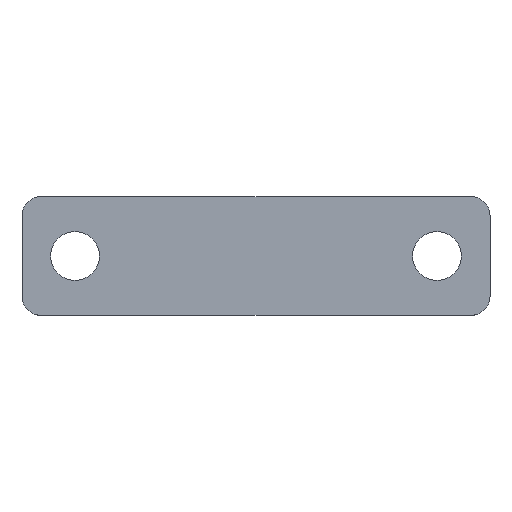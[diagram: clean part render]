
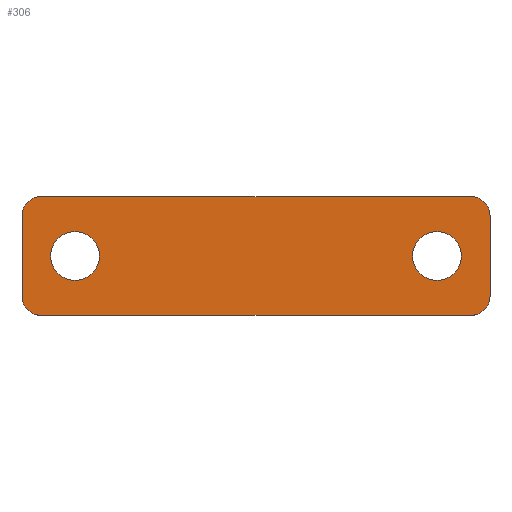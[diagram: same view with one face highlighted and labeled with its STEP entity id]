
A CAD part, top view. The second image highlights one B-rep face of the part: STEP entity #306.
In plain terms, the highlighted planar face has unit normal (0, 0, 1).
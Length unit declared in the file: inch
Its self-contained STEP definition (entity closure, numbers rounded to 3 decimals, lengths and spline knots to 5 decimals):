
#45=CARTESIAN_POINT('',(0.58,0.,0.093));
#46=DIRECTION('',(0.,0.,1.));
#47=DIRECTION('',(1.,0.,0.));
#48=AXIS2_PLACEMENT_3D('',#45,#46,#47);
#50=CARTESIAN_POINT('',(0.58,0.,0.093));
#51=DIRECTION('',(0.,0.,1.));
#52=DIRECTION('',(-1.,0.,0.));
#53=AXIS2_PLACEMENT_3D('',#50,#51,#52);
#55=CARTESIAN_POINT('',(-0.58,0.,0.093));
#56=DIRECTION('',(0.,0.,1.));
#57=DIRECTION('',(1.,0.,0.));
#58=AXIS2_PLACEMENT_3D('',#55,#56,#57);
#60=CARTESIAN_POINT('',(-0.58,0.,0.093));
#61=DIRECTION('',(0.,0.,1.));
#62=DIRECTION('',(-1.,0.,0.));
#63=AXIS2_PLACEMENT_3D('',#60,#61,#62);
#65=DIRECTION('',(0.,1.,0.));
#66=VECTOR('',#65,0.26);
#67=CARTESIAN_POINT('',(0.75,-0.13,0.093));
#68=LINE('',#67,#66);
#69=DIRECTION('',(1.,0.,0.));
#70=VECTOR('',#69,1.38);
#71=CARTESIAN_POINT('',(-0.69,-0.19,0.093));
#72=LINE('',#71,#70);
#73=DIRECTION('',(0.,-1.,0.));
#74=VECTOR('',#73,0.26);
#75=CARTESIAN_POINT('',(-0.75,0.13,0.093));
#76=LINE('',#75,#74);
#77=DIRECTION('',(-1.,0.,0.));
#78=VECTOR('',#77,1.38);
#79=CARTESIAN_POINT('',(0.69,0.19,0.093));
#80=LINE('',#79,#78);
#102=CARTESIAN_POINT('',(0.69,0.13,0.093));
#103=DIRECTION('',(0.,0.,1.));
#104=DIRECTION('',(1.,0.,0.));
#105=AXIS2_PLACEMENT_3D('',#102,#103,#104);
#120=CARTESIAN_POINT('',(-0.69,0.13,0.093));
#121=DIRECTION('',(0.,0.,1.));
#122=DIRECTION('',(0.,1.,0.));
#123=AXIS2_PLACEMENT_3D('',#120,#121,#122);
#138=CARTESIAN_POINT('',(-0.69,-0.13,0.093));
#139=DIRECTION('',(0.,0.,1.));
#140=DIRECTION('',(-1.,0.,0.));
#141=AXIS2_PLACEMENT_3D('',#138,#139,#140);
#156=CARTESIAN_POINT('',(0.69,-0.13,0.093));
#157=DIRECTION('',(0.,0.,1.));
#158=DIRECTION('',(0.,-1.,0.));
#159=AXIS2_PLACEMENT_3D('',#156,#157,#158);
#169=CARTESIAN_POINT('',(0.658,0.,0.093));
#170=CARTESIAN_POINT('',(0.502,0.,0.093));
#171=VERTEX_POINT('',#169);
#172=VERTEX_POINT('',#170);
#173=CARTESIAN_POINT('',(-0.502,0.,0.093));
#174=CARTESIAN_POINT('',(-0.658,0.,0.093));
#175=VERTEX_POINT('',#173);
#176=VERTEX_POINT('',#174);
#177=CARTESIAN_POINT('',(0.69,0.19,0.093));
#179=VERTEX_POINT('',#177);
#183=CARTESIAN_POINT('',(0.75,0.13,0.093));
#184=VERTEX_POINT('',#183);
#185=CARTESIAN_POINT('',(0.75,-0.13,0.093));
#187=VERTEX_POINT('',#185);
#191=CARTESIAN_POINT('',(0.69,-0.19,0.093));
#192=VERTEX_POINT('',#191);
#193=CARTESIAN_POINT('',(-0.75,0.13,0.093));
#195=VERTEX_POINT('',#193);
#199=CARTESIAN_POINT('',(-0.69,0.19,0.093));
#200=VERTEX_POINT('',#199);
#201=CARTESIAN_POINT('',(-0.69,-0.19,0.093));
#203=VERTEX_POINT('',#201);
#207=CARTESIAN_POINT('',(-0.75,-0.13,0.093));
#208=VERTEX_POINT('',#207);
#273=CARTESIAN_POINT('',(0.,0.,0.093));
#274=DIRECTION('',(0.,0.,1.));
#275=DIRECTION('',(1.,0.,0.));
#276=AXIS2_PLACEMENT_3D('',#273,#274,#275);
#277=PLANE('',#276);
#279=ORIENTED_EDGE('',*,*,#278,.F.);
#281=ORIENTED_EDGE('',*,*,#280,.F.);
#283=ORIENTED_EDGE('',*,*,#282,.F.);
#285=ORIENTED_EDGE('',*,*,#284,.F.);
#287=ORIENTED_EDGE('',*,*,#286,.F.);
#289=ORIENTED_EDGE('',*,*,#288,.F.);
#291=ORIENTED_EDGE('',*,*,#290,.F.);
#293=ORIENTED_EDGE('',*,*,#292,.F.);
#294=EDGE_LOOP('',(#279,#281,#283,#285,#287,#289,#291,#293));
#295=FACE_OUTER_BOUND('',#294,.F.);
#297=ORIENTED_EDGE('',*,*,#296,.T.);
#299=ORIENTED_EDGE('',*,*,#298,.T.);
#300=EDGE_LOOP('',(#297,#299));
#301=FACE_BOUND('',#300,.F.);
#302=ORIENTED_EDGE('',*,*,#253,.T.);
#303=ORIENTED_EDGE('',*,*,#267,.T.);
#304=EDGE_LOOP('',(#302,#303));
#305=FACE_BOUND('',#304,.F.);
#306=ADVANCED_FACE('',(#295,#301,#305),#277,.T.);
#49=CIRCLE('',#48,0.078);
#54=CIRCLE('',#53,0.078);
#59=CIRCLE('',#58,0.078);
#64=CIRCLE('',#63,0.078);
#106=CIRCLE('',#105,0.06);
#124=CIRCLE('',#123,0.06);
#142=CIRCLE('',#141,0.06);
#160=CIRCLE('',#159,0.06);
#253=EDGE_CURVE('',#171,#172,#49,.T.);
#267=EDGE_CURVE('',#172,#171,#54,.T.);
#278=EDGE_CURVE('',#184,#179,#106,.T.);
#280=EDGE_CURVE('',#187,#184,#68,.T.);
#282=EDGE_CURVE('',#192,#187,#160,.T.);
#284=EDGE_CURVE('',#203,#192,#72,.T.);
#286=EDGE_CURVE('',#208,#203,#142,.T.);
#288=EDGE_CURVE('',#195,#208,#76,.T.);
#290=EDGE_CURVE('',#200,#195,#124,.T.);
#292=EDGE_CURVE('',#179,#200,#80,.T.);
#296=EDGE_CURVE('',#175,#176,#59,.T.);
#298=EDGE_CURVE('',#176,#175,#64,.T.);
